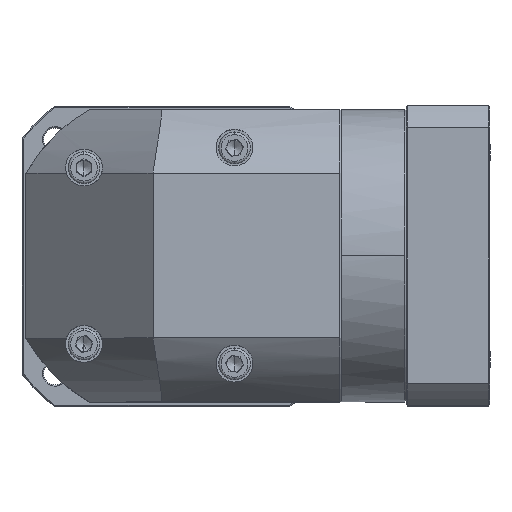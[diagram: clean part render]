
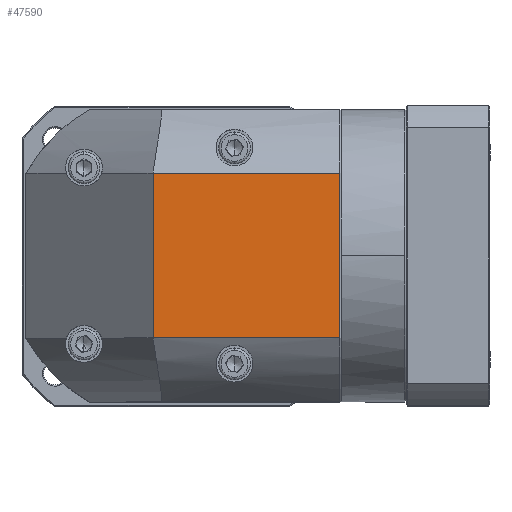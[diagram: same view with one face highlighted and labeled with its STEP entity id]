
A CAD part, top view. The second image highlights one B-rep face of the part: STEP entity #47590.
In plain terms, the highlighted planar face has unit normal (0, 0, 1).
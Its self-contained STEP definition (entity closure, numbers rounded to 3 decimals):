
#4830 = LINE ( 'NONE', #94336, #84344 ) ;
#5576 = VECTOR ( 'NONE', #28432, 1000. ) ;
#7100 = CARTESIAN_POINT ( 'NONE',  ( -7.768, 29.558, 60.212 ) ) ;
#10679 = ORIENTED_EDGE ( 'NONE', *, *, #117390, .F. ) ;
#13105 = VERTEX_POINT ( 'NONE', #85947 ) ;
#15960 = AXIS2_PLACEMENT_3D ( 'NONE', #15980, #57313, #108996 ) ;
#15980 = CARTESIAN_POINT ( 'NONE',  ( 49.732, 61.958, 60.212 ) ) ;
#21822 = LINE ( 'NONE', #7100, #5576 ) ;
#28432 = DIRECTION ( 'NONE',  ( -1., 0., 0. ) ) ;
#28444 = VERTEX_POINT ( 'NONE', #129662 ) ;
#30278 = VERTEX_POINT ( 'NONE', #106410 ) ;
#36004 = EDGE_LOOP ( 'NONE', ( #55700, #79100, #10679, #77046 ) ) ;
#42111 = VECTOR ( 'NONE', #134179, 1000. ) ;
#43065 = DIRECTION ( 'NONE',  ( 1., 0., 0. ) ) ;
#44859 = DIRECTION ( 'NONE',  ( 0., 1., 0. ) ) ;
#47590 = ADVANCED_FACE ( 'NONE', ( #95868 ), #99912, .F. ) ;
#48365 = VERTEX_POINT ( 'NONE', #123710 ) ;
#55700 = ORIENTED_EDGE ( 'NONE', *, *, #86557, .F. ) ;
#57313 = DIRECTION ( 'NONE',  ( 0., 0., -1. ) ) ;
#61679 = CARTESIAN_POINT ( 'NONE',  ( 115.632, 119.458, 60.212 ) ) ;
#62648 = VECTOR ( 'NONE', #44859, 1000. ) ;
#77046 = ORIENTED_EDGE ( 'NONE', *, *, #128638, .F. ) ;
#79100 = ORIENTED_EDGE ( 'NONE', *, *, #90923, .F. ) ;
#84344 = VECTOR ( 'NONE', #43065, 1000. ) ;
#85947 = CARTESIAN_POINT ( 'NONE',  ( 42.232, 29.558, 60.212 ) ) ;
#86127 = CARTESIAN_POINT ( 'NONE',  ( 42.232, 119.458, 60.212 ) ) ;
#86557 = EDGE_CURVE ( 'NONE', #28444, #30278, #4830, .T. ) ;
#90185 = LINE ( 'NONE', #86127, #62648 ) ;
#90923 = EDGE_CURVE ( 'NONE', #13105, #28444, #90185, .T. ) ;
#94336 = CARTESIAN_POINT ( 'NONE',  ( -7.768, 94.358, 60.212 ) ) ;
#95868 = FACE_OUTER_BOUND ( 'NONE', #36004, .T. ) ;
#99912 = PLANE ( 'NONE',  #15960 ) ;
#103820 = LINE ( 'NONE', #61679, #42111 ) ;
#106410 = CARTESIAN_POINT ( 'NONE',  ( 115.632, 94.358, 60.212 ) ) ;
#108996 = DIRECTION ( 'NONE',  ( 0., -1., 0. ) ) ;
#117390 = EDGE_CURVE ( 'NONE', #48365, #13105, #21822, .T. ) ;
#123710 = CARTESIAN_POINT ( 'NONE',  ( 115.632, 29.558, 60.212 ) ) ;
#128638 = EDGE_CURVE ( 'NONE', #30278, #48365, #103820, .T. ) ;
#129662 = CARTESIAN_POINT ( 'NONE',  ( 42.232, 94.358, 60.212 ) ) ;
#134179 = DIRECTION ( 'NONE',  ( 0., -1., 0. ) ) ;
